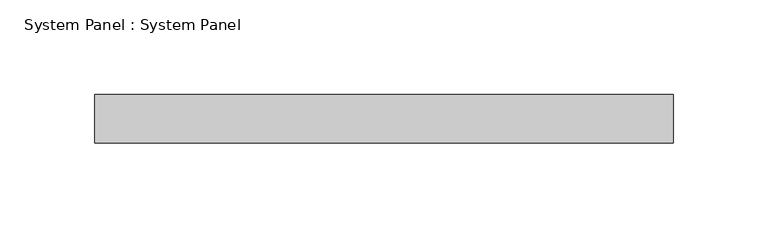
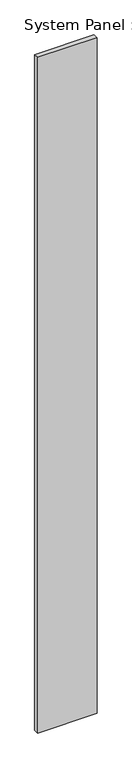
"""IFC4 building model written with IfcOpenShell, lengths in millimetres: plate geometry, System Panel : System Panel."""

from ifc_helpers import new_model, si_unit, origin, origin_with_axes, place, context, project, spatial, polyline, outline, extrude, source, transform, mapped, element, save


def system_panel_system_panel_e008ddc8(model_context):
    return source(origin(), model_context, "Body", "SweptSolid", [
        extrude(outline(polyline([(152.4, 19.05), (-152.4, 19.05), (-152.4, 44.45), (152.4, 44.45), (152.4, 19.05)])), origin_with_axes(), (0.0, 0.0, 1.0), 3657.6),
    ])


if __name__ == "__main__":
    model = new_model("IFC4")
    model_context = context("Model", 3, world=origin())
    ifc_project = project(units=[si_unit("LENGTHUNIT", "METRE", prefix="MILLI")], contexts=[model_context])
    site = spatial("IfcSite", under=ifc_project)
    building = spatial("IfcBuilding", under=site)
    placement = place(None, origin())
    system_panel_system_panel_shape = system_panel_system_panel_e008ddc8(model_context)
    element("IfcPlate", 1, ObjectType="System Panel : System Panel", at=placement, inside=building, context=model_context, shape_type="MappedRepresentation", body=[
        mapped(system_panel_system_panel_shape, transform((0.0, 0.0, 0.0), x_axis=(1.0, 0.0, 0.0), y_axis=(0.0, 1.0, 0.0), z_axis=(0.0, 0.0, 1.0))),
    ])
    save(model, "model.ifc")
